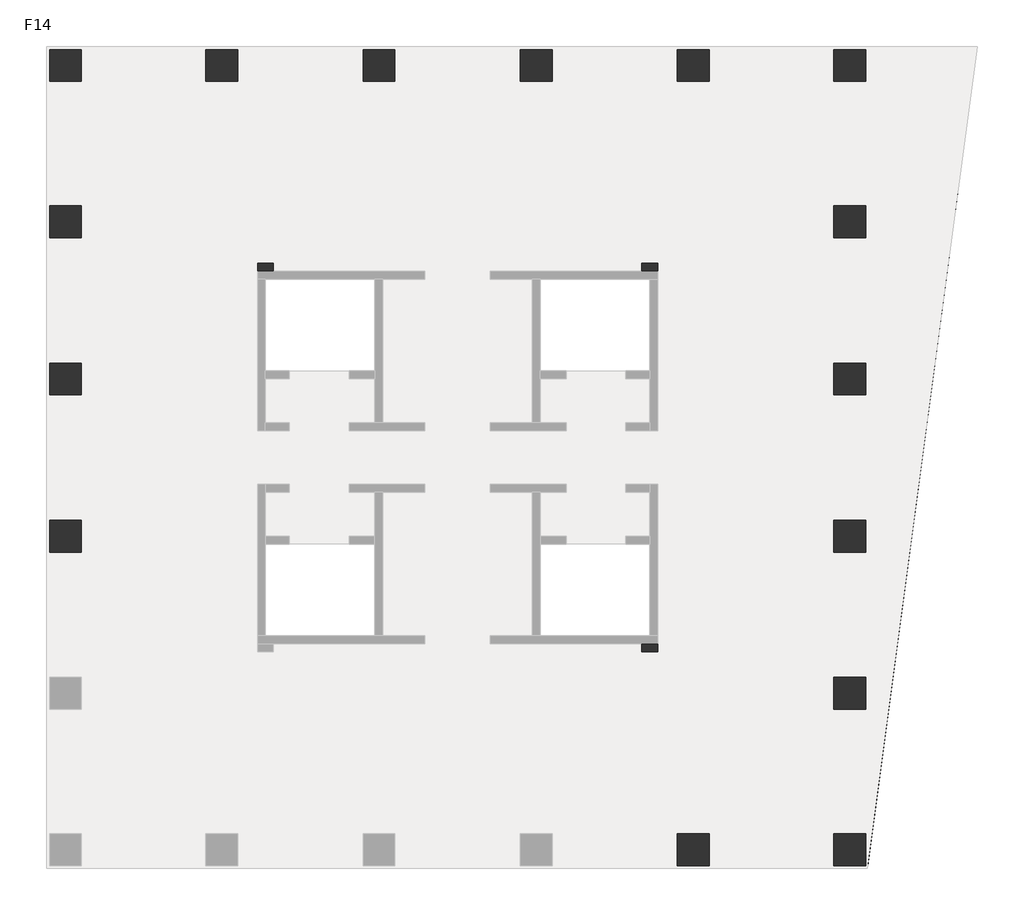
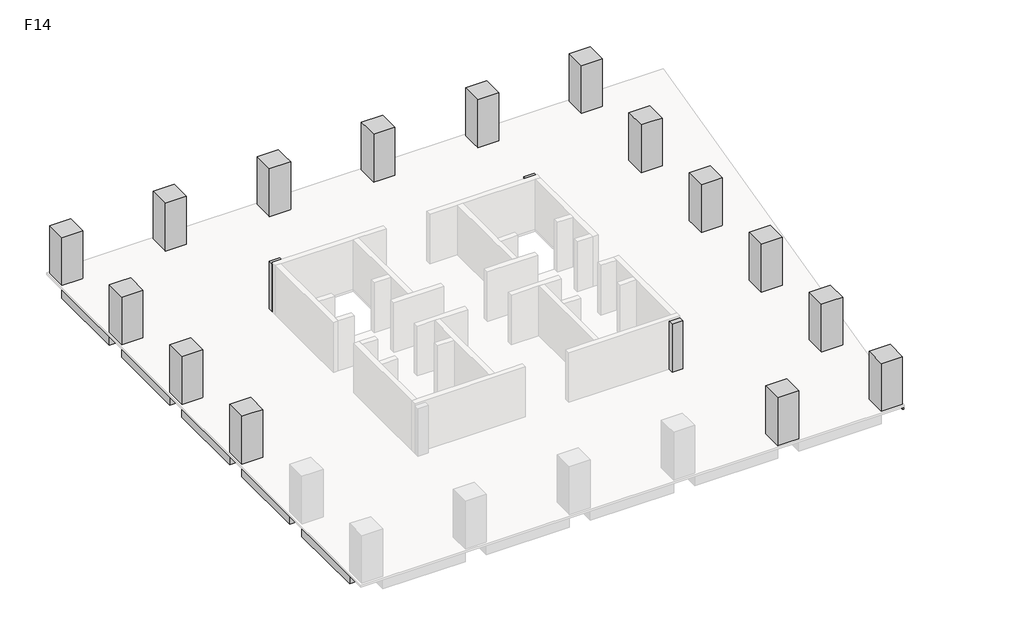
# One storey, part 2 of 2: 21 beams, 18 columns.
"""IFC4 building model written with IfcOpenShell, lengths in millimetres."""

from ifc_helpers import new_model, si_unit, frame, origin, place, context, project, spatial, polyline, outline, extrude, faceted_brep, element, save

model = new_model("IFC4")

# Units and contexts
model_context = context("Model", 3, world=origin())
ifc_project = project(units=[si_unit("LENGTHUNIT", "METRE", prefix="MILLI")], contexts=[model_context])

# Site, building, storey
site = spatial("IfcSite", under=ifc_project)
building = spatial("IfcBuilding", under=site)
storey = spatial("IfcBuildingStorey", under=building, Name="F14", Elevation=56000.0)

# Beams
placement = place(None, origin())
element("IfcBeam", 1, ObjectType="混凝土 - 矩形梁 : KL(5)-800x1000", at=placement, inside=storey, context=model_context, shape_type="SweptSolid", body=[
    extrude(outline(polyline([(25327.3257831, 27051.0498658), (25327.3257831, 26251.0498658), (19077.3257831, 26251.0498658), (19077.3257831, 27051.0498658), (25327.3257831, 27051.0498658)])), frame((0.0, 0.0, 55000.0), z_axis=(0.0, 0.0, 1.0), x_axis=(1.0, 0.0, 0.0)), (0.0, 0.0, 1.0), 840.0),
    extrude(outline(polyline([(-12472.6742169, 26251.0498658), (-12472.6742169, 27051.0498658), (-6222.6742169, 27051.0498658), (-6222.6742169, 26251.0498658), (-12472.6742169, 26251.0498658)])), frame((0.0, 0.0, 55000.0), z_axis=(0.0, 0.0, 1.0), x_axis=(1.0, 0.0, 0.0)), (0.0, 0.0, 1.0), 840.0),
    extrude(outline(polyline([(-4622.6742169, 26251.0498658), (-4622.6742169, 27051.0498658), (1677.3257831, 27051.0498658), (1677.3257831, 26251.0498658), (-4622.6742169, 26251.0498658)])), frame((0.0, 0.0, 55000.0), z_axis=(0.0, 0.0, 1.0), x_axis=(1.0, 0.0, 0.0)), (0.0, 0.0, 1.0), 840.0),
    extrude(outline(polyline([(3277.3257831, 26251.0498658), (3277.3257831, 27051.0498658), (9577.3257831, 27051.0498658), (9577.3257831, 26251.0498658), (3277.3257831, 26251.0498658)])), frame((0.0, 0.0, 55000.0), z_axis=(0.0, 0.0, 1.0), x_axis=(1.0, 0.0, 0.0)), (0.0, 0.0, 1.0), 840.0),
    extrude(outline(polyline([(11177.3257831, 26251.0498658), (11177.3257831, 27051.0498658), (17477.3257831, 27051.0498658), (17477.3257831, 26251.0498658), (11177.3257831, 26251.0498658)])), frame((0.0, 0.0, 55000.0), z_axis=(0.0, 0.0, 1.0), x_axis=(1.0, 0.0, 0.0)), (0.0, 0.0, 1.0), 840.0),
])
element("IfcBeam", 2, ObjectType="混凝土 - 矩形梁 : KL(5)-800x1000", at=placement, inside=storey, context=model_context, shape_type="Brep", body=[
    faceted_brep([(26927.3257831, 26251.0498658, 55000.0), (32422.0087099, 26251.0498658, 55000.0), (32422.0087099, 26251.0498658, 55840.0), (32018.4257091, 26251.0498658, 55840.0), (26927.3257831, 26251.0498658, 55840.0), (32422.0087099, 27051.0498658, 55000.0), (26927.3257831, 27051.0498658, 55000.0), (26927.3257831, 27051.0498658, 55840.0), (32422.0087099, 27051.0498658, 55840.0)], [[[0, 1, 2, 3, 4]], [[5, 1, 0, 6]], [[5, 6, 7, 8]], [[1, 5, 8, 2]], [[6, 0, 4, 7]], [[4, 3, 2, 8, 7]]]),
])
element("IfcBeam", 3, ObjectType="混凝土 - 矩形梁 : KL(5)-800x1000", at=placement, inside=storey, context=model_context, shape_type="Brep", body=[
    faceted_brep([(26127.3257831, -6098.9501342, 55000.0), (26127.3257831, -12348.9501342, 55000.0), (26127.3257831, -12348.9501342, 55840.0), (26127.3257831, -6098.9501342, 55840.0), (26927.3257831, -12348.9501342, 55000.0), (26927.3257831, -6098.9501342, 55000.0), (26927.3257831, -6098.9501342, 55840.0), (26927.3257831, -11700.7859463, 55840.0), (26927.3257831, -12348.9501342, 55840.0)], [[[0, 1, 2, 3]], [[4, 1, 0, 5]], [[4, 5, 6, 7, 8]], [[1, 4, 8, 2]], [[5, 0, 3, 6]], [[3, 2, 8, 7, 6]]]),
    faceted_brep([(26927.3257831, 25451.0498658, 55000.0), (26127.3257831, 25451.0498658, 55000.0), (26127.3257831, 25451.0498658, 55840.0), (26927.3257831, 25451.0498658, 55840.0), (26127.3257831, 19201.0498658, 55000.0), (26927.3257831, 19201.0498658, 55000.0), (26927.3257831, 19201.0498658, 55840.0), (26127.3257831, 19201.0498658, 55840.0)], [[[0, 1, 2, 3]], [[4, 5, 6, 7]], [[1, 4, 7, 2]], [[1, 0, 5, 4]], [[5, 0, 3, 6]], [[3, 2, 7, 6]]]),
    faceted_brep([(26927.3257831, 17601.0498658, 55000.0), (26127.3257831, 17601.0498658, 55000.0), (26127.3257831, 17601.0498658, 55840.0), (26927.3257831, 17601.0498658, 55840.0), (26127.3257831, 11301.0498658, 55000.0), (26927.3257831, 11301.0498658, 55000.0), (26927.3257831, 11301.0498658, 55840.0), (26127.3257831, 11301.0498658, 55840.0)], [[[0, 1, 2, 3]], [[4, 5, 6, 7]], [[1, 4, 7, 2]], [[1, 0, 5, 4]], [[5, 0, 3, 6]], [[3, 2, 7, 6]]]),
    faceted_brep([(26927.3257831, 9701.0498658, 55000.0), (26127.3257831, 9701.0498658, 55000.0), (26127.3257831, 9701.0498658, 55840.0), (26927.3257831, 9701.0498658, 55840.0), (26127.3257831, 3401.0498658, 55000.0), (26927.3257831, 3401.0498658, 55000.0), (26927.3257831, 3401.0498658, 55840.0), (26127.3257831, 3401.0498658, 55840.0)], [[[0, 1, 2, 3]], [[4, 5, 6, 7]], [[1, 4, 7, 2]], [[1, 0, 5, 4]], [[5, 0, 3, 6]], [[3, 2, 7, 6]]]),
    faceted_brep([(26927.3257831, 1801.0498658, 55000.0), (26127.3257831, 1801.0498658, 55000.0), (26127.3257831, 1801.0498658, 55840.0), (26927.3257831, 1801.0498658, 55840.0), (26127.3257831, -4498.9501342, 55000.0), (26927.3257831, -4498.9501342, 55000.0), (26927.3257831, -4498.9501342, 55840.0), (26127.3257831, -4498.9501342, 55840.0)], [[[0, 1, 2, 3]], [[4, 5, 6, 7]], [[1, 4, 7, 2]], [[1, 0, 5, 4]], [[5, 0, 3, 6]], [[3, 2, 7, 6]]]),
])
element("IfcBeam", 4, ObjectType="混凝土 - 矩形梁 : KL(5)-800x1000", at=placement, inside=storey, context=model_context, shape_type="SweptSolid", body=[
    extrude(outline(polyline([(-14072.6742169, 25451.0498658), (-13272.6742169, 25451.0498658), (-13272.6742169, 19201.0498658), (-14072.6742169, 19201.0498658), (-14072.6742169, 25451.0498658)])), frame((0.0, 0.0, 55000.0), z_axis=(0.0, 0.0, 1.0), x_axis=(1.0, 0.0, 0.0)), (0.0, 0.0, 1.0), 840.0),
    extrude(outline(polyline([(-13272.6742169, -12348.9501342), (-14072.6742169, -12348.9501342), (-14072.6742169, -6098.9501342), (-13272.6742169, -6098.9501342), (-13272.6742169, -12348.9501342)])), frame((0.0, 0.0, 55000.0), z_axis=(0.0, 0.0, 1.0), x_axis=(1.0, 0.0, 0.0)), (0.0, 0.0, 1.0), 840.0),
    extrude(outline(polyline([(-14072.6742169, 17601.0498658), (-13272.6742169, 17601.0498658), (-13272.6742169, 11301.0498658), (-14072.6742169, 11301.0498658), (-14072.6742169, 17601.0498658)])), frame((0.0, 0.0, 55000.0), z_axis=(0.0, 0.0, 1.0), x_axis=(1.0, 0.0, 0.0)), (0.0, 0.0, 1.0), 840.0),
    extrude(outline(polyline([(-14072.6742169, 9701.0498658), (-13272.6742169, 9701.0498658), (-13272.6742169, 3401.0498658), (-14072.6742169, 3401.0498658), (-14072.6742169, 9701.0498658)])), frame((0.0, 0.0, 55000.0), z_axis=(0.0, 0.0, 1.0), x_axis=(1.0, 0.0, 0.0)), (0.0, 0.0, 1.0), 840.0),
    extrude(outline(polyline([(-14072.6742169, 1801.0498658), (-13272.6742169, 1801.0498658), (-13272.6742169, -4498.9501342), (-14072.6742169, -4498.9501342), (-14072.6742169, 1801.0498658)])), frame((0.0, 0.0, 55000.0), z_axis=(0.0, 0.0, 1.0), x_axis=(1.0, 0.0, 0.0)), (0.0, 0.0, 1.0), 840.0),
])
element("IfcBeam", 5, ObjectType="混凝土 - 矩形梁 : L1-800x500", at=placement, inside=storey, context=model_context, shape_type="SweptSolid", body=[
    extrude(outline(polyline([(-12472.6742169, 2201.0498658), (-12472.6742169, 3001.0498658), (-3622.6742169, 3001.0498658), (-3622.6742169, 2201.0498658), (-12472.6742169, 2201.0498658)])), frame((0.0, 0.0, 55500.0), z_axis=(0.0, 0.0, 1.0), x_axis=(1.0, 0.0, 0.0)), (0.0, 0.0, 1.0), 340.0),
])
element("IfcBeam", 6, ObjectType="混凝土 - 矩形梁 : L1-800x500", at=placement, inside=storey, context=model_context, shape_type="SweptSolid", body=[
    extrude(outline(polyline([(-12472.6742169, 10101.0498658), (-12472.6742169, 10901.0498658), (-3622.6742169, 10901.0498658), (-3622.6742169, 10101.0498658), (-12472.6742169, 10101.0498658)])), frame((0.0, 0.0, 55500.0), z_axis=(0.0, 0.0, 1.0), x_axis=(1.0, 0.0, 0.0)), (0.0, 0.0, 1.0), 340.0),
])
element("IfcBeam", 7, ObjectType="混凝土 - 矩形梁 : L1-800x500", at=placement, inside=storey, context=model_context, shape_type="Brep", body=[
    faceted_brep([(-12472.6742169, 17789.85471, 55500.0), (-3622.6742169, 15588.3621727, 55500.0), (-3622.6742169, 15588.3621727, 55840.0), (-12472.6742169, 17789.85471, 55840.0), (-3173.6696907, 16301.0498658, 55500.0), (-3622.6742169, 16301.0498658, 55500.0), (-3622.6742169, 15901.0498658, 55500.0), (-12472.6742169, 18614.2350714, 55500.0), (-3746.9473979, 16443.6562607, 55500.0), (-12472.6742169, 18614.2350714, 55840.0), (-3746.9473979, 16443.6562607, 55840.0), (-3173.6696907, 16301.0498658, 55840.0), (-3622.6742169, 16301.0498658, 55840.0)], [[[0, 1, 2, 3]], [[4, 5, 6, 1, 0, 7, 8]], [[4, 8, 7, 9, 10, 11]], [[6, 5, 12, 2, 1]], [[5, 4, 11, 12]], [[7, 0, 3, 9]], [[3, 2, 12, 11, 10, 9]]]),
])
element("IfcBeam", 8, ObjectType="混凝土 - 矩形梁 : L1-800x500", at=placement, inside=storey, context=model_context, shape_type="SweptSolid", body=[
    extrude(outline(polyline([(-3173.6696907, 16301.0498658), (-3746.9473979, 16443.6562607), (-5661.5624638, 25451.0498658), (-4843.6893517, 25451.0498658), (-2898.7618154, 16301.0498658), (-3173.6696907, 16301.0498658)])), frame((0.0, 0.0, 55500.0), z_axis=(0.0, 0.0, 1.0), x_axis=(1.0, 0.0, 0.0)), (0.0, 0.0, 1.0), 340.0),
])
element("IfcBeam", 9, ObjectType="混凝土 - 矩形梁 : L1-800x500", at=placement, inside=storey, context=model_context, shape_type="SweptSolid", body=[
    extrude(outline(polyline([(2077.3257831, 25451.0498658), (2877.3257831, 25451.0498658), (2877.3257831, 15901.0498658), (2077.3257831, 15901.0498658), (2077.3257831, 25451.0498658)])), frame((0.0, 0.0, 55500.0), z_axis=(0.0, 0.0, 1.0), x_axis=(1.0, 0.0, 0.0)), (0.0, 0.0, 1.0), 340.0),
])
element("IfcBeam", 10, ObjectType="混凝土 - 矩形梁 : L1-800x500", at=placement, inside=storey, context=model_context, shape_type="SweptSolid", body=[
    extrude(outline(polyline([(9977.3257831, 25451.0498658), (10777.3257831, 25451.0498658), (10777.3257831, 15901.0498658), (9977.3257831, 15901.0498658), (9977.3257831, 25451.0498658)])), frame((0.0, 0.0, 55500.0), z_axis=(0.0, 0.0, 1.0), x_axis=(1.0, 0.0, 0.0)), (0.0, 0.0, 1.0), 340.0),
])
element("IfcBeam", 11, ObjectType="混凝土 - 矩形梁 : L1-800x500", at=placement, inside=storey, context=model_context, shape_type="Brep", body=[
    faceted_brep([(25327.3257831, -4687.7549784, 55500.0), (16477.3257831, -2486.2624411, 55500.0), (16477.3257831, -2486.2624411, 55840.0), (25327.3257831, -4687.7549784, 55840.0), (16028.3212569, -3198.9501342, 55500.0), (16477.3257831, -3198.9501342, 55500.0), (16477.3257831, -2798.9501342, 55500.0), (25327.3257831, -5512.1353397, 55500.0), (16601.5989641, -3341.556529, 55500.0), (25327.3257831, -5512.1353397, 55840.0), (16601.5989641, -3341.556529, 55840.0), (16028.3212569, -3198.9501342, 55840.0), (16477.3257831, -3198.9501342, 55840.0)], [[[0, 1, 2, 3]], [[4, 5, 6, 1, 0, 7, 8]], [[4, 8, 7, 9, 10, 11]], [[6, 5, 12, 2, 1]], [[5, 4, 11, 12]], [[7, 0, 3, 9]], [[3, 2, 12, 11, 10, 9]]]),
])
element("IfcBeam", 12, ObjectType="混凝土 - 矩形梁 : L1-800x500", at=placement, inside=storey, context=model_context, shape_type="SweptSolid", body=[
    extrude(outline(polyline([(16028.3212569, -3198.9501342), (16601.5989641, -3341.556529), (18516.21403, -12348.9501342), (17698.3409179, -12348.9501342), (15753.4133817, -3198.9501342), (16028.3212569, -3198.9501342)])), frame((0.0, 0.0, 55500.0), z_axis=(0.0, 0.0, 1.0), x_axis=(1.0, 0.0, 0.0)), (0.0, 0.0, 1.0), 340.0),
])
element("IfcBeam", 13, ObjectType="混凝土 - 矩形梁 : L1-800x500", at=placement, inside=storey, context=model_context, shape_type="SweptSolid", body=[
    extrude(outline(polyline([(25327.3257831, 3001.0498658), (25327.3257831, 2201.0498658), (16477.3257831, 2201.0498658), (16477.3257831, 3001.0498658), (25327.3257831, 3001.0498658)])), frame((0.0, 0.0, 55500.0), z_axis=(0.0, 0.0, 1.0), x_axis=(1.0, 0.0, 0.0)), (0.0, 0.0, 1.0), 340.0),
])
element("IfcBeam", 14, ObjectType="混凝土 - 矩形梁 : L1-800x500", at=placement, inside=storey, context=model_context, shape_type="SweptSolid", body=[
    extrude(outline(polyline([(25327.3257831, 10901.0498658), (25327.3257831, 10101.0498658), (16477.3257831, 10101.0498658), (16477.3257831, 10901.0498658), (25327.3257831, 10901.0498658)])), frame((0.0, 0.0, 55500.0), z_axis=(0.0, 0.0, 1.0), x_axis=(1.0, 0.0, 0.0)), (0.0, 0.0, 1.0), 340.0),
])
element("IfcBeam", 15, ObjectType="混凝土 - 矩形梁 : L1-800x500", at=placement, inside=storey, context=model_context, shape_type="Brep", body=[
    faceted_brep([(25327.3257831, 18610.6867312, 55500.0), (16590.8993897, 16393.3196262, 55500.0), (16227.3565337, 16301.0498658, 55500.0), (16227.3565337, 16301.0498658, 55840.0), (16590.8993897, 16393.3196262, 55840.0), (25327.3257831, 18610.6867312, 55840.0), (16477.3257831, 16301.0498658, 55500.0), (25327.3257831, 17785.3216299, 55500.0), (16477.3257831, 15539.1287365, 55500.0), (16477.3257831, 15901.0498658, 55500.0), (25327.3257831, 17785.3216299, 55840.0), (16477.3257831, 15539.1287365, 55840.0), (16477.3257831, 16301.0498658, 55840.0)], [[[0, 1, 2, 3, 4, 5]], [[6, 2, 1, 0, 7, 8, 9]], [[8, 7, 10, 11]], [[9, 8, 11, 12, 6]], [[2, 6, 12, 3]], [[7, 0, 5, 10]], [[5, 4, 3, 12, 11, 10]]]),
])
element("IfcBeam", 16, ObjectType="混凝土 - 矩形梁 : L1-800x500", at=placement, inside=storey, context=model_context, shape_type="SweptSolid", body=[
    extrude(outline(polyline([(16590.8993897, 16393.3196262), (16227.3565337, 16301.0498658), (15753.4133817, 16301.0498658), (17698.3409179, 25451.0498658), (18516.21403, 25451.0498658), (16590.8993897, 16393.3196262)])), frame((0.0, 0.0, 55500.0), z_axis=(0.0, 0.0, 1.0), x_axis=(1.0, 0.0, 0.0)), (0.0, 0.0, 1.0), 340.0),
])
element("IfcBeam", 17, ObjectType="混凝土 - 矩形梁 : L2-400x400", at=placement, inside=storey, context=model_context, shape_type="Brep", body=[
    faceted_brep([(32422.0087099, 26251.0498658, 55600.0), (27029.3257831, -13948.9501342, 55600.0), (26927.3257831, -13935.2672073, 55600.0), (26927.3257831, -11700.7859463, 55600.0), (27759.2793677, -5498.9501342, 55600.0), (27812.9379042, -5098.9501342, 55600.0), (28819.0354652, 2401.0498658, 55600.0), (28872.6940018, 2801.0498658, 55600.0), (29878.7915628, 10301.0498658, 55600.0), (29932.4500994, 10701.0498658, 55600.0), (30938.5476603, 18201.0498658, 55600.0), (30992.2061969, 18601.0498658, 55600.0), (32018.4257091, 26251.0498658, 55600.0), (32422.0087099, 26251.0498658, 55840.0), (27029.3257831, -13948.9501342, 55840.0), (32018.4257091, 26251.0498658, 55840.0), (26927.3257831, -13935.2672073, 55840.0), (26927.3257831, -12348.9501342, 55840.0), (26927.3257831, -11700.7859463, 55840.0), (27759.2793677, -5498.9501342, 55840.0), (27812.9379042, -5098.9501342, 55840.0), (28819.0354652, 2401.0498658, 55840.0), (28872.6940018, 2801.0498658, 55840.0), (29878.7915628, 10301.0498658, 55840.0), (29932.4500994, 10701.0498658, 55840.0), (30938.5476603, 18201.0498658, 55840.0), (30992.2061969, 18601.0498658, 55840.0)], [[[0, 1, 2, 3, 4, 5, 6, 7, 8, 9, 10, 11, 12]], [[1, 0, 13, 14]], [[0, 12, 15, 13]], [[3, 2, 16, 17, 18]], [[12, 11, 10, 9, 8, 7, 6, 5, 4, 3, 18, 19, 20, 21, 22, 23, 24, 25, 26, 15]], [[2, 1, 14, 16]], [[14, 13, 15, 26, 25, 24, 23, 22, 21, 20, 19, 18, 17, 16]]]),
])
element("IfcBeam", 18, ObjectType="混凝土 - 矩形梁 : L2-400x400", at=placement, inside=storey, context=model_context, shape_type="SweptSolid", body=[
    extrude(outline(polyline([(30938.5476603, 18201.0498658), (26927.3257831, 18201.0498658), (26927.3257831, 18601.0498658), (30992.2061969, 18601.0498658), (30938.5476603, 18201.0498658)])), frame((0.0, 0.0, 55600.0), z_axis=(0.0, 0.0, 1.0), x_axis=(1.0, 0.0, 0.0)), (0.0, 0.0, 1.0), 240.0),
])
element("IfcBeam", 19, ObjectType="混凝土 - 矩形梁 : L2-400x400", at=placement, inside=storey, context=model_context, shape_type="SweptSolid", body=[
    extrude(outline(polyline([(29878.7915628, 10301.0498658), (26927.3257831, 10301.0498658), (26927.3257831, 10701.0498658), (29932.4500994, 10701.0498658), (29878.7915628, 10301.0498658)])), frame((0.0, 0.0, 55600.0), z_axis=(0.0, 0.0, 1.0), x_axis=(1.0, 0.0, 0.0)), (0.0, 0.0, 1.0), 240.0),
])
element("IfcBeam", 20, ObjectType="混凝土 - 矩形梁 : L2-400x400", at=placement, inside=storey, context=model_context, shape_type="SweptSolid", body=[
    extrude(outline(polyline([(28819.0354652, 2401.0498658), (26927.3257831, 2401.0498658), (26927.3257831, 2801.0498658), (28872.6940018, 2801.0498658), (28819.0354652, 2401.0498658)])), frame((0.0, 0.0, 55600.0), z_axis=(0.0, 0.0, 1.0), x_axis=(1.0, 0.0, 0.0)), (0.0, 0.0, 1.0), 240.0),
])
element("IfcBeam", 21, ObjectType="混凝土 - 矩形梁 : L2-400x400", at=placement, inside=storey, context=model_context, shape_type="SweptSolid", body=[
    extrude(outline(polyline([(27759.2793677, -5498.9501342), (26927.3257831, -5498.9501342), (26927.3257831, -5098.9501342), (27812.9379042, -5098.9501342), (27759.2793677, -5498.9501342)])), frame((0.0, 0.0, 55600.0), z_axis=(0.0, 0.0, 1.0), x_axis=(1.0, 0.0, 0.0)), (0.0, 0.0, 1.0), 240.0),
])

# Columns
element("IfcColumn", 22, ObjectType="混凝土 - 矩形 - 柱 : Z1-1600x1600", at=placement, inside=storey, context=model_context, shape_type="SweptSolid", body=[
    extrude(outline(polyline([(-12472.6742169, 27051.0498658), (-12472.6742169, 25451.0498658), (-14072.6742169, 25451.0498658), (-14072.6742169, 27051.0498658), (-12472.6742169, 27051.0498658)])), frame((0.0, 0.0, 56000.0), z_axis=(0.0, 0.0, 1.0), x_axis=(1.0, 0.0, 0.0)), (0.0, 0.0, 1.0), 3840.0),
])
element("IfcColumn", 23, ObjectType="混凝土 - 矩形 - 柱 : Z1-1600x1600", at=placement, inside=storey, context=model_context, shape_type="Brep", body=[
    faceted_brep([(-4622.6742169, 27051.0498658, 56000.0), (-4622.6742169, 25451.0498658, 56000.0), (-6222.6742169, 25451.0498658, 56000.0), (-6222.6742169, 27051.0498658, 56000.0), (-4622.6742169, 27051.0498658, 59000.0), (-4622.6742169, 27051.0498658, 59840.0), (-4622.6742169, 26251.0498658, 59840.0), (-4622.6742169, 25451.0498658, 59840.0), (-6222.6742169, 25451.0498658, 59840.0), (-6222.6742169, 26251.0498658, 59840.0), (-6222.6742169, 27051.0498658, 59840.0), (-6222.6742169, 27051.0498658, 59000.0)], [[[0, 1, 2, 3]], [[1, 0, 4, 5, 6, 7]], [[2, 1, 7, 8]], [[3, 2, 8, 9, 10, 11]], [[0, 3, 11, 10, 5, 4]], [[7, 6, 5, 10, 9, 8]]]),
])
element("IfcColumn", 24, ObjectType="混凝土 - 矩形 - 柱 : Z1-1600x1600", at=placement, inside=storey, context=model_context, shape_type="Brep", body=[
    faceted_brep([(-12472.6742169, 19201.0498658, 56000.0), (-12472.6742169, 17601.0498658, 56000.0), (-14072.6742169, 17601.0498658, 56000.0), (-14072.6742169, 19201.0498658, 56000.0), (-12472.6742169, 19201.0498658, 59840.0), (-12472.6742169, 17601.0498658, 59840.0), (-13272.6742169, 17601.0498658, 59840.0), (-14072.6742169, 17601.0498658, 59840.0), (-14072.6742169, 17601.0498658, 59000.0), (-14072.6742169, 19201.0498658, 59840.0), (-14072.6742169, 19201.0498658, 59000.0), (-13272.6742169, 19201.0498658, 59840.0)], [[[0, 1, 2, 3]], [[1, 0, 4, 5]], [[2, 1, 5, 6, 7, 8]], [[3, 2, 8, 7, 9, 10]], [[0, 3, 10, 9, 11, 4]], [[5, 4, 11, 9, 7, 6]]]),
])
element("IfcColumn", 25, ObjectType="混凝土 - 矩形 - 柱 : Z1-1600x1600", at=placement, inside=storey, context=model_context, shape_type="Brep", body=[
    faceted_brep([(-12472.6742169, 11301.0498658, 56000.0), (-12472.6742169, 9701.0498658, 56000.0), (-14072.6742169, 9701.0498658, 56000.0), (-14072.6742169, 11301.0498658, 56000.0), (-12472.6742169, 11301.0498658, 59840.0), (-12472.6742169, 9701.0498658, 59840.0), (-13272.6742169, 9701.0498658, 59840.0), (-14072.6742169, 9701.0498658, 59840.0), (-14072.6742169, 9701.0498658, 59000.0), (-14072.6742169, 11301.0498658, 59840.0), (-14072.6742169, 11301.0498658, 59000.0), (-13272.6742169, 11301.0498658, 59840.0)], [[[0, 1, 2, 3]], [[1, 0, 4, 5]], [[2, 1, 5, 6, 7, 8]], [[3, 2, 8, 7, 9, 10]], [[0, 3, 10, 9, 11, 4]], [[5, 4, 11, 9, 7, 6]]]),
])
element("IfcColumn", 26, ObjectType="混凝土 - 矩形 - 柱 : Z1-1600x1600", at=placement, inside=storey, context=model_context, shape_type="Brep", body=[
    faceted_brep([(-12472.6742169, 3401.0498658, 56000.0), (-12472.6742169, 1801.0498658, 56000.0), (-14072.6742169, 1801.0498658, 56000.0), (-14072.6742169, 3401.0498658, 56000.0), (-12472.6742169, 3401.0498658, 59840.0), (-12472.6742169, 1801.0498658, 59840.0), (-13272.6742169, 1801.0498658, 59840.0), (-14072.6742169, 1801.0498658, 59840.0), (-14072.6742169, 1801.0498658, 59000.0), (-14072.6742169, 3401.0498658, 59840.0), (-14072.6742169, 3401.0498658, 59000.0), (-13272.6742169, 3401.0498658, 59840.0)], [[[0, 1, 2, 3]], [[1, 0, 4, 5]], [[2, 1, 5, 6, 7, 8]], [[3, 2, 8, 7, 9, 10]], [[0, 3, 10, 9, 11, 4]], [[5, 4, 11, 9, 7, 6]]]),
])
element("IfcColumn", 27, ObjectType="混凝土 - 矩形 - 柱 : Z1-1600x1600", at=placement, inside=storey, context=model_context, shape_type="SweptSolid", body=[
    extrude(outline(polyline([(25327.3257831, 27051.0498658), (26927.3257831, 27051.0498658), (26927.3257831, 25451.0498658), (25327.3257831, 25451.0498658), (25327.3257831, 27051.0498658)])), frame((0.0, 0.0, 56000.0), z_axis=(0.0, 0.0, 1.0), x_axis=(1.0, 0.0, 0.0)), (0.0, 0.0, 1.0), 3840.0),
])
element("IfcColumn", 28, ObjectType="混凝土 - 矩形 - 柱 : Z1-1600x1600", at=placement, inside=storey, context=model_context, shape_type="Brep", body=[
    faceted_brep([(25327.3257831, 19201.0498658, 56000.0), (26927.3257831, 19201.0498658, 56000.0), (26927.3257831, 17601.0498658, 56000.0), (25327.3257831, 17601.0498658, 56000.0), (25327.3257831, 17601.0498658, 59840.0), (25327.3257831, 19201.0498658, 59840.0), (26927.3257831, 17601.0498658, 59000.0), (26927.3257831, 17601.0498658, 59840.0), (26127.3257831, 17601.0498658, 59840.0), (26927.3257831, 19201.0498658, 59000.0), (26927.3257831, 19201.0498658, 59840.0), (26127.3257831, 19201.0498658, 59840.0)], [[[0, 1, 2, 3]], [[0, 3, 4, 5]], [[3, 2, 6, 7, 8, 4]], [[2, 1, 9, 10, 7, 6]], [[1, 0, 5, 11, 10, 9]], [[5, 4, 8, 7, 10, 11]]]),
])
element("IfcColumn", 29, ObjectType="混凝土 - 矩形 - 柱 : Z1-1600x1600", at=placement, inside=storey, context=model_context, shape_type="Brep", body=[
    faceted_brep([(25327.3257831, 11301.0498658, 56000.0), (26927.3257831, 11301.0498658, 56000.0), (26927.3257831, 9701.0498658, 56000.0), (25327.3257831, 9701.0498658, 56000.0), (25327.3257831, 9701.0498658, 59840.0), (25327.3257831, 11301.0498658, 59840.0), (26927.3257831, 9701.0498658, 59000.0), (26927.3257831, 9701.0498658, 59840.0), (26127.3257831, 9701.0498658, 59840.0), (26927.3257831, 11301.0498658, 59000.0), (26927.3257831, 11301.0498658, 59840.0), (26127.3257831, 11301.0498658, 59840.0)], [[[0, 1, 2, 3]], [[0, 3, 4, 5]], [[3, 2, 6, 7, 8, 4]], [[2, 1, 9, 10, 7, 6]], [[1, 0, 5, 11, 10, 9]], [[5, 4, 8, 7, 10, 11]]]),
])
element("IfcColumn", 30, ObjectType="混凝土 - 矩形 - 柱 : Z1-1600x1600", at=placement, inside=storey, context=model_context, shape_type="Brep", body=[
    faceted_brep([(25327.3257831, 3401.0498658, 56000.0), (26927.3257831, 3401.0498658, 56000.0), (26927.3257831, 1801.0498658, 56000.0), (25327.3257831, 1801.0498658, 56000.0), (25327.3257831, 1801.0498658, 59840.0), (25327.3257831, 3401.0498658, 59840.0), (26927.3257831, 1801.0498658, 59000.0), (26927.3257831, 1801.0498658, 59840.0), (26127.3257831, 1801.0498658, 59840.0), (26927.3257831, 3401.0498658, 59000.0), (26927.3257831, 3401.0498658, 59840.0), (26127.3257831, 3401.0498658, 59840.0)], [[[0, 1, 2, 3]], [[0, 3, 4, 5]], [[3, 2, 6, 7, 8, 4]], [[2, 1, 9, 10, 7, 6]], [[1, 0, 5, 11, 10, 9]], [[5, 4, 8, 7, 10, 11]]]),
])
element("IfcColumn", 31, ObjectType="混凝土 - 矩形 - 柱 : Z1-1600x1600", at=placement, inside=storey, context=model_context, shape_type="Brep", body=[
    faceted_brep([(25327.3257831, -4498.9501342, 56000.0), (26927.3257831, -4498.9501342, 56000.0), (26927.3257831, -6098.9501342, 56000.0), (25327.3257831, -6098.9501342, 56000.0), (25327.3257831, -6098.9501342, 59840.0), (25327.3257831, -4498.9501342, 59840.0), (26927.3257831, -6098.9501342, 59000.0), (26927.3257831, -6098.9501342, 59840.0), (26127.3257831, -6098.9501342, 59840.0), (26927.3257831, -4498.9501342, 59000.0), (26927.3257831, -4498.9501342, 59840.0), (26127.3257831, -4498.9501342, 59840.0)], [[[0, 1, 2, 3]], [[0, 3, 4, 5]], [[3, 2, 6, 7, 8, 4]], [[2, 1, 9, 10, 7, 6]], [[1, 0, 5, 11, 10, 9]], [[5, 4, 8, 7, 10, 11]]]),
])
element("IfcColumn", 32, ObjectType="混凝土 - 矩形 - 柱 : Z1-1600x1600", at=placement, inside=storey, context=model_context, shape_type="SweptSolid", body=[
    extrude(outline(polyline([(25327.3257831, -12348.9501342), (26927.3257831, -12348.9501342), (26927.3257831, -13948.9501342), (25327.3257831, -13948.9501342), (25327.3257831, -12348.9501342)])), frame((0.0, 0.0, 56000.0), z_axis=(0.0, 0.0, 1.0), x_axis=(1.0, 0.0, 0.0)), (0.0, 0.0, 1.0), 3840.0),
])
element("IfcColumn", 33, ObjectType="混凝土 - 矩形 - 柱 : Z1-1600x1600", at=placement, inside=storey, context=model_context, shape_type="Brep", body=[
    faceted_brep([(3277.3257831, 27051.0498658, 56000.0), (3277.3257831, 25451.0498658, 56000.0), (1677.3257831, 25451.0498658, 56000.0), (1677.3257831, 27051.0498658, 56000.0), (3277.3257831, 27051.0498658, 59000.0), (3277.3257831, 27051.0498658, 59840.0), (3277.3257831, 26251.0498658, 59840.0), (3277.3257831, 25451.0498658, 59840.0), (1677.3257831, 25451.0498658, 59840.0), (1677.3257831, 26251.0498658, 59840.0), (1677.3257831, 27051.0498658, 59840.0), (1677.3257831, 27051.0498658, 59000.0)], [[[0, 1, 2, 3]], [[1, 0, 4, 5, 6, 7]], [[2, 1, 7, 8]], [[3, 2, 8, 9, 10, 11]], [[0, 3, 11, 10, 5, 4]], [[7, 6, 5, 10, 9, 8]]]),
])
element("IfcColumn", 34, ObjectType="混凝土 - 矩形 - 柱 : Z1-1600x1600", at=placement, inside=storey, context=model_context, shape_type="Brep", body=[
    faceted_brep([(11177.3257831, 27051.0498658, 56000.0), (11177.3257831, 25451.0498658, 56000.0), (9577.3257831, 25451.0498658, 56000.0), (9577.3257831, 27051.0498658, 56000.0), (11177.3257831, 27051.0498658, 59000.0), (11177.3257831, 27051.0498658, 59840.0), (11177.3257831, 26251.0498658, 59840.0), (11177.3257831, 25451.0498658, 59840.0), (9577.3257831, 25451.0498658, 59840.0), (9577.3257831, 26251.0498658, 59840.0), (9577.3257831, 27051.0498658, 59840.0), (9577.3257831, 27051.0498658, 59000.0)], [[[0, 1, 2, 3]], [[1, 0, 4, 5, 6, 7]], [[2, 1, 7, 8]], [[3, 2, 8, 9, 10, 11]], [[0, 3, 11, 10, 5, 4]], [[7, 6, 5, 10, 9, 8]]]),
])
element("IfcColumn", 35, ObjectType="混凝土 - 矩形 - 柱 : Z1-1600x1600", at=placement, inside=storey, context=model_context, shape_type="Brep", body=[
    faceted_brep([(19077.3257831, 27051.0498658, 56000.0), (19077.3257831, 25451.0498658, 56000.0), (17477.3257831, 25451.0498658, 56000.0), (17477.3257831, 27051.0498658, 56000.0), (19077.3257831, 27051.0498658, 59000.0), (19077.3257831, 27051.0498658, 59840.0), (19077.3257831, 26251.0498658, 59840.0), (19077.3257831, 25451.0498658, 59840.0), (17477.3257831, 25451.0498658, 59840.0), (17477.3257831, 26251.0498658, 59840.0), (17477.3257831, 27051.0498658, 59840.0), (17477.3257831, 27051.0498658, 59000.0)], [[[0, 1, 2, 3]], [[1, 0, 4, 5, 6, 7]], [[2, 1, 7, 8]], [[3, 2, 8, 9, 10, 11]], [[0, 3, 11, 10, 5, 4]], [[7, 6, 5, 10, 9, 8]]]),
])
element("IfcColumn", 36, ObjectType="混凝土 - 矩形 - 柱 : Z1-1600x1600", at=placement, inside=storey, context=model_context, shape_type="Brep", body=[
    faceted_brep([(19077.3257831, -12348.9501342, 56000.0), (19077.3257831, -13948.9501342, 56000.0), (17477.3257831, -13948.9501342, 56000.0), (17477.3257831, -12348.9501342, 56000.0), (19077.3257831, -12348.9501342, 59840.0), (19077.3257831, -13148.9501342, 59840.0), (19077.3257831, -13948.9501342, 59840.0), (19077.3257831, -13948.9501342, 59000.0), (17477.3257831, -13948.9501342, 59840.0), (17477.3257831, -13948.9501342, 59000.0), (17477.3257831, -13148.9501342, 59840.0), (17477.3257831, -12348.9501342, 59840.0)], [[[0, 1, 2, 3]], [[1, 0, 4, 5, 6, 7]], [[2, 1, 7, 6, 8, 9]], [[3, 2, 9, 8, 10, 11]], [[0, 3, 11, 4]], [[6, 5, 4, 11, 10, 8]]]),
])
element("IfcColumn", 37, ObjectType="混凝土 - 矩形 - 柱 : Z2-800x800", at=placement, inside=storey, context=model_context, shape_type="SweptSolid", body=[
    extrude(outline(polyline([(-3622.6742169, 16301.0498658), (-2822.6742169, 16301.0498658), (-2822.6742169, 15901.0498658), (-3622.6742169, 15901.0498658), (-3622.6742169, 16301.0498658)])), frame((0.0, 0.0, 56000.0), z_axis=(0.0, 0.0, 1.0), x_axis=(1.0, 0.0, 0.0)), (0.0, 0.0, 1.0), 3840.0),
])
element("IfcColumn", 38, ObjectType="混凝土 - 矩形 - 柱 : Z2-800x800", at=placement, inside=storey, context=model_context, shape_type="SweptSolid", body=[
    extrude(outline(polyline([(16477.3257831, -3198.9501342), (15677.3257831, -3198.9501342), (15677.3257831, -2798.9501342), (16477.3257831, -2798.9501342), (16477.3257831, -3198.9501342)])), frame((0.0, 0.0, 56000.0), z_axis=(0.0, 0.0, 1.0), x_axis=(1.0, 0.0, 0.0)), (0.0, 0.0, 1.0), 3840.0),
])
element("IfcColumn", 39, ObjectType="混凝土 - 矩形 - 柱 : Z2-800x800", at=placement, inside=storey, context=model_context, shape_type="SweptSolid", body=[
    extrude(outline(polyline([(15677.3257831, 16301.0498658), (16477.3257831, 16301.0498658), (16477.3257831, 15901.0498658), (15677.3257831, 15901.0498658), (15677.3257831, 16301.0498658)])), frame((0.0, 0.0, 56000.0), z_axis=(0.0, 0.0, 1.0), x_axis=(1.0, 0.0, 0.0)), (0.0, 0.0, 1.0), 3840.0),
])

save(model, "model.ifc")
